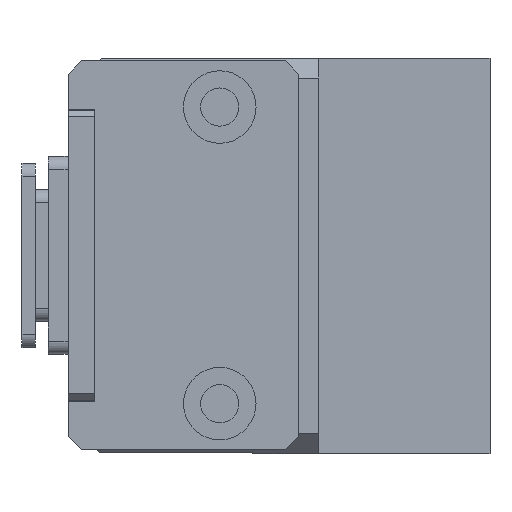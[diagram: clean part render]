
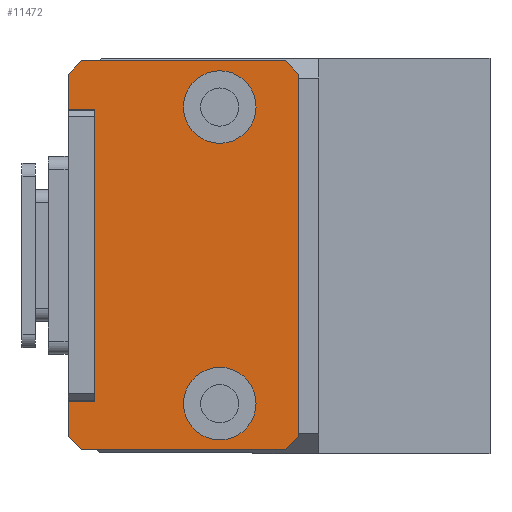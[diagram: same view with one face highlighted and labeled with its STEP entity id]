
A CAD part, left-side view. The second image highlights one B-rep face of the part: STEP entity #11472.
In plain terms, the highlighted planar face has unit normal (-1, 0, 0) as drawn and (1, 0, 0) by its records, which use the part's own axes.
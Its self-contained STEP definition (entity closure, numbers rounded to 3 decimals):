
#10 = VECTOR ( 'NONE', #20242, 1000. ) ;
#100 = LINE ( 'NONE', #13731, #12288 ) ;
#255 = CARTESIAN_POINT ( 'NONE',  ( -27.5, 14.625, 15.375 ) ) ;
#808 = VERTEX_POINT ( 'NONE', #19168 ) ;
#867 = CARTESIAN_POINT ( 'NONE',  ( -27.5, 11.25, 20.5 ) ) ;
#872 = CARTESIAN_POINT ( 'NONE',  ( -27.5, 11.05, 30. ) ) ;
#1154 = EDGE_CURVE ( 'NONE', #808, #7797, #7667, .T. ) ;
#1492 = VERTEX_POINT ( 'NONE', #17574 ) ;
#1621 = CARTESIAN_POINT ( 'NONE',  ( -27.5, -11.25, 17.75 ) ) ;
#2498 = DIRECTION ( 'NONE',  ( 0., 0., -1. ) ) ;
#3033 = EDGE_CURVE ( 'NONE', #11288, #1492, #8853, .T. ) ;
#3315 = LINE ( 'NONE', #3912, #11734 ) ;
#3379 = LINE ( 'NONE', #255, #7586 ) ;
#3650 = CARTESIAN_POINT ( 'NONE',  ( -27.5, -14.75, 15.5 ) ) ;
#3813 = VERTEX_POINT ( 'NONE', #17799 ) ;
#3912 = CARTESIAN_POINT ( 'NONE',  ( -27.5, 0., 32. ) ) ;
#4043 = VERTEX_POINT ( 'NONE', #19729 ) ;
#4472 = DIRECTION ( 'NONE',  ( 1., 0., 0. ) ) ;
#4537 = CARTESIAN_POINT ( 'NONE',  ( -27.5, -13.75, 14.5 ) ) ;
#4550 = VERTEX_POINT ( 'NONE', #8169 ) ;
#4665 = FACE_BOUND ( 'NONE', #8938, .T. ) ;
#6070 = DIRECTION ( 'NONE',  ( 1., 0., 0. ) ) ;
#6129 = VECTOR ( 'NONE', #13669, 1000. ) ;
#6344 = CIRCLE ( 'NONE', #15523, 2.75 ) ;
#6409 = EDGE_LOOP ( 'NONE', ( #13852, #12631 ) ) ;
#6523 = ORIENTED_EDGE ( 'NONE', *, *, #18553, .T. ) ;
#6574 = DIRECTION ( 'NONE',  ( 0., 0., 1. ) ) ;
#6600 = VERTEX_POINT ( 'NONE', #7662 ) ;
#6756 = EDGE_CURVE ( 'NONE', #3813, #11253, #8848, .T. ) ;
#7069 = ORIENTED_EDGE ( 'NONE', *, *, #10855, .T. ) ;
#7278 = AXIS2_PLACEMENT_3D ( 'NONE', #17805, #8271, #19380 ) ;
#7362 = AXIS2_PLACEMENT_3D ( 'NONE', #8250, #19361, #9877 ) ;
#7428 = DIRECTION ( 'NONE',  ( 0., -0.707, -0.707 ) ) ;
#7574 = ORIENTED_EDGE ( 'NONE', *, *, #1154, .T. ) ;
#7586 = VECTOR ( 'NONE', #9770, 1000. ) ;
#7662 = CARTESIAN_POINT ( 'NONE',  ( -27.5, 14.75, 31. ) ) ;
#7667 = LINE ( 'NONE', #17606, #14630 ) ;
#7797 = VERTEX_POINT ( 'NONE', #3650 ) ;
#8040 = ORIENTED_EDGE ( 'NONE', *, *, #11686, .F. ) ;
#8169 = CARTESIAN_POINT ( 'NONE',  ( -27.5, 11.05, 32. ) ) ;
#8250 = CARTESIAN_POINT ( 'NONE',  ( -27.5, 0., 30. ) ) ;
#8271 = DIRECTION ( 'NONE',  ( 1., 0., 0. ) ) ;
#8410 = LINE ( 'NONE', #14468, #12135 ) ;
#8419 = DIRECTION ( 'NONE',  ( 0., 1., 0. ) ) ;
#8716 = CARTESIAN_POINT ( 'NONE',  ( -27.5, 11.25, 17.75 ) ) ;
#8738 = CARTESIAN_POINT ( 'NONE',  ( -27.5, -11.05, 29.95 ) ) ;
#8766 = VERTEX_POINT ( 'NONE', #12837 ) ;
#8848 = LINE ( 'NONE', #8738, #16803 ) ;
#8853 = LINE ( 'NONE', #11263, #16808 ) ;
#8938 = EDGE_LOOP ( 'NONE', ( #16942, #10070 ) ) ;
#8962 = LINE ( 'NONE', #9169, #10 ) ;
#9169 = CARTESIAN_POINT ( 'NONE',  ( -27.5, 11.05, 32. ) ) ;
#9258 = EDGE_CURVE ( 'NONE', #17367, #13073, #16202, .T. ) ;
#9393 = DIRECTION ( 'NONE',  ( 0., -0.707, 0.707 ) ) ;
#9493 = ORIENTED_EDGE ( 'NONE', *, *, #17092, .T. ) ;
#9579 = ORIENTED_EDGE ( 'NONE', *, *, #11745, .T. ) ;
#9770 = DIRECTION ( 'NONE',  ( 0., 0.707, 0.707 ) ) ;
#9877 = DIRECTION ( 'NONE',  ( 0., 1., 0. ) ) ;
#10070 = ORIENTED_EDGE ( 'NONE', *, *, #16251, .F. ) ;
#10176 = CARTESIAN_POINT ( 'NONE',  ( -27.5, 11.25, 23.25 ) ) ;
#10232 = AXIS2_PLACEMENT_3D ( 'NONE', #15577, #6070, #17163 ) ;
#10335 = DIRECTION ( 'NONE',  ( 0., 0., 1. ) ) ;
#10698 = AXIS2_PLACEMENT_3D ( 'NONE', #13968, #4472, #15565 ) ;
#10833 = VECTOR ( 'NONE', #9393, 1000. ) ;
#10855 = EDGE_CURVE ( 'NONE', #8766, #6600, #8410, .T. ) ;
#11000 = CARTESIAN_POINT ( 'NONE',  ( -27.5, -13.75, 32. ) ) ;
#11210 = ORIENTED_EDGE ( 'NONE', *, *, #3033, .T. ) ;
#11253 = VERTEX_POINT ( 'NONE', #20278 ) ;
#11263 = CARTESIAN_POINT ( 'NONE',  ( -27.5, -12.75, 14.5 ) ) ;
#11277 = VECTOR ( 'NONE', #11904, 1000. ) ;
#11288 = VERTEX_POINT ( 'NONE', #4537 ) ;
#11388 = PLANE ( 'NONE',  #7362 ) ;
#11472 = ADVANCED_FACE ( 'NONE', ( #4665, #17315, #13099 ), #11388, .T. ) ;
#11478 = ORIENTED_EDGE ( 'NONE', *, *, #13520, .F. ) ;
#11686 = EDGE_CURVE ( 'NONE', #14472, #11253, #18782, .T. ) ;
#11734 = VECTOR ( 'NONE', #18186, 1000. ) ;
#11745 = EDGE_CURVE ( 'NONE', #6600, #12777, #17793, .T. ) ;
#11834 = ORIENTED_EDGE ( 'NONE', *, *, #13146, .T. ) ;
#11904 = DIRECTION ( 'NONE',  ( 0., -1., 0. ) ) ;
#11969 = DIRECTION ( 'NONE',  ( 1., 0., 0. ) ) ;
#12076 = CARTESIAN_POINT ( 'NONE',  ( -27.5, 0., 32. ) ) ;
#12135 = VECTOR ( 'NONE', #6574, 1000. ) ;
#12288 = VECTOR ( 'NONE', #7428, 1000. ) ;
#12631 = ORIENTED_EDGE ( 'NONE', *, *, #17335, .F. ) ;
#12777 = VERTEX_POINT ( 'NONE', #18642 ) ;
#12837 = CARTESIAN_POINT ( 'NONE',  ( -27.5, 14.75, 15.5 ) ) ;
#13073 = VERTEX_POINT ( 'NONE', #10176 ) ;
#13099 = FACE_OUTER_BOUND ( 'NONE', #19055, .T. ) ;
#13146 = EDGE_CURVE ( 'NONE', #14696, #3813, #19694, .T. ) ;
#13238 = VERTEX_POINT ( 'NONE', #1621 ) ;
#13520 = EDGE_CURVE ( 'NONE', #4550, #12777, #3315, .T. ) ;
#13669 = DIRECTION ( 'NONE',  ( 0., 1., 0. ) ) ;
#13731 = CARTESIAN_POINT ( 'NONE',  ( -27.5, -7.875, 37.875 ) ) ;
#13852 = ORIENTED_EDGE ( 'NONE', *, *, #9258, .F. ) ;
#13968 = CARTESIAN_POINT ( 'NONE',  ( -27.5, -11.25, 20.5 ) ) ;
#14468 = CARTESIAN_POINT ( 'NONE',  ( -27.5, 14.75, 14.5 ) ) ;
#14472 = VERTEX_POINT ( 'NONE', #11000 ) ;
#14630 = VECTOR ( 'NONE', #17454, 1000. ) ;
#14696 = VERTEX_POINT ( 'NONE', #18592 ) ;
#14705 = EDGE_CURVE ( 'NONE', #4550, #14696, #8962, .T. ) ;
#15251 = CIRCLE ( 'NONE', #7278, 2.75 ) ;
#15280 = VECTOR ( 'NONE', #18930, 1000. ) ;
#15523 = AXIS2_PLACEMENT_3D ( 'NONE', #867, #11969, #2498 ) ;
#15565 = DIRECTION ( 'NONE',  ( 0., 0., -1. ) ) ;
#15577 = CARTESIAN_POINT ( 'NONE',  ( -27.5, 11.25, 20.5 ) ) ;
#15803 = LINE ( 'NONE', #20548, #15280 ) ;
#16202 = CIRCLE ( 'NONE', #10232, 2.75 ) ;
#16251 = EDGE_CURVE ( 'NONE', #4043, #13238, #19558, .T. ) ;
#16803 = VECTOR ( 'NONE', #10335, 1000. ) ;
#16808 = VECTOR ( 'NONE', #8419, 1000. ) ;
#16942 = ORIENTED_EDGE ( 'NONE', *, *, #17768, .F. ) ;
#17092 = EDGE_CURVE ( 'NONE', #1492, #8766, #3379, .T. ) ;
#17163 = DIRECTION ( 'NONE',  ( 0., 0., -1. ) ) ;
#17315 = FACE_BOUND ( 'NONE', #6409, .T. ) ;
#17335 = EDGE_CURVE ( 'NONE', #13073, #17367, #6344, .T. ) ;
#17367 = VERTEX_POINT ( 'NONE', #8716 ) ;
#17454 = DIRECTION ( 'NONE',  ( 0., 0., -1. ) ) ;
#17530 = ORIENTED_EDGE ( 'NONE', *, *, #14705, .T. ) ;
#17574 = CARTESIAN_POINT ( 'NONE',  ( -27.5, 13.75, 14.5 ) ) ;
#17606 = CARTESIAN_POINT ( 'NONE',  ( -27.5, -14.75, 32. ) ) ;
#17768 = EDGE_CURVE ( 'NONE', #13238, #4043, #15251, .T. ) ;
#17793 = LINE ( 'NONE', #18875, #10833 ) ;
#17799 = CARTESIAN_POINT ( 'NONE',  ( -27.5, -11.05, 30. ) ) ;
#17805 = CARTESIAN_POINT ( 'NONE',  ( -27.5, -11.25, 20.5 ) ) ;
#18186 = DIRECTION ( 'NONE',  ( 0., 1., 0. ) ) ;
#18544 = ORIENTED_EDGE ( 'NONE', *, *, #20279, .T. ) ;
#18553 = EDGE_CURVE ( 'NONE', #14472, #808, #100, .T. ) ;
#18592 = CARTESIAN_POINT ( 'NONE',  ( -27.5, 11.05, 30. ) ) ;
#18642 = CARTESIAN_POINT ( 'NONE',  ( -27.5, 13.75, 32. ) ) ;
#18782 = LINE ( 'NONE', #12076, #6129 ) ;
#18875 = CARTESIAN_POINT ( 'NONE',  ( -27.5, 7.875, 37.875 ) ) ;
#18930 = DIRECTION ( 'NONE',  ( 0., 0.707, -0.707 ) ) ;
#19055 = EDGE_LOOP ( 'NONE', ( #11210, #9493, #7069, #9579, #11478, #17530, #11834, #19275, #8040, #6523, #7574, #18544 ) ) ;
#19168 = CARTESIAN_POINT ( 'NONE',  ( -27.5, -14.75, 31. ) ) ;
#19275 = ORIENTED_EDGE ( 'NONE', *, *, #6756, .T. ) ;
#19361 = DIRECTION ( 'NONE',  ( 1., 0., 0. ) ) ;
#19380 = DIRECTION ( 'NONE',  ( 0., 0., -1. ) ) ;
#19558 = CIRCLE ( 'NONE', #10698, 2.75 ) ;
#19694 = LINE ( 'NONE', #872, #11277 ) ;
#19729 = CARTESIAN_POINT ( 'NONE',  ( -27.5, -11.25, 23.25 ) ) ;
#20242 = DIRECTION ( 'NONE',  ( 0., 0., -1. ) ) ;
#20278 = CARTESIAN_POINT ( 'NONE',  ( -27.5, -11.05, 32. ) ) ;
#20279 = EDGE_CURVE ( 'NONE', #7797, #11288, #15803, .T. ) ;
#20548 = CARTESIAN_POINT ( 'NONE',  ( -27.5, -14.625, 15.375 ) ) ;
